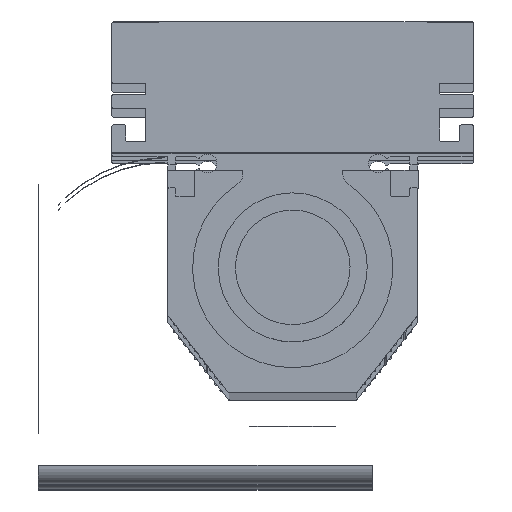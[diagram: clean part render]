
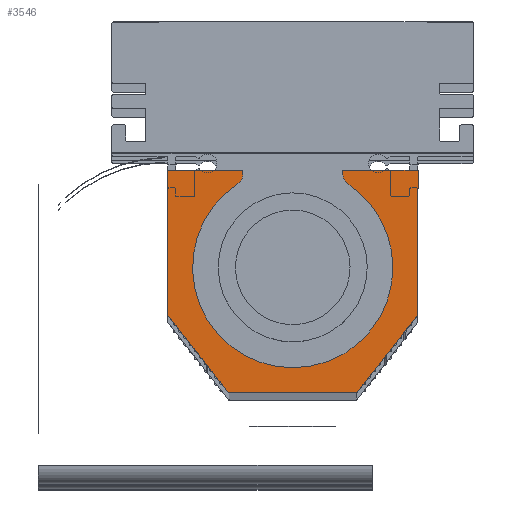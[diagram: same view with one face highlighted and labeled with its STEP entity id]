
A CAD part, top view. The second image highlights one B-rep face of the part: STEP entity #3546.
In plain terms, the highlighted planar face has unit normal (0, 0, 1).
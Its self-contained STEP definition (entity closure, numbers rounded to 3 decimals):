
#3386=CARTESIAN_POINT('',(0.,0.,376.5));
#3387=DIRECTION('',(0.,0.,1.));
#3388=DIRECTION('',(-0.549,0.836,0.));
#3389=AXIS2_PLACEMENT_3D('',#3386,#3387,#3388);
#3391=CARTESIAN_POINT('',(0.,0.,376.5));
#3392=DIRECTION('',(0.,0.,1.));
#3393=DIRECTION('',(0.499,-0.867,0.));
#3394=AXIS2_PLACEMENT_3D('',#3391,#3392,#3393);
#3396=CARTESIAN_POINT('',(0.,0.,376.5));
#3397=DIRECTION('',(0.,0.,1.));
#3398=DIRECTION('',(0.549,-0.836,0.));
#3399=AXIS2_PLACEMENT_3D('',#3396,#3397,#3398);
#3401=CARTESIAN_POINT('',(11.018,16.691,376.5));
#3402=DIRECTION('',(0.,0.,-1.));
#3403=DIRECTION('',(-0.551,-0.835,0.));
#3404=AXIS2_PLACEMENT_3D('',#3401,#3402,#3403);
#3406=DIRECTION('',(0.001,1.,0.));
#3407=VECTOR('',#3406,0.797);
#3408=CARTESIAN_POINT('',(9.018,16.694,376.5));
#3409=LINE('',#3408,#3407);
#3410=DIRECTION('',(1.,-0.001,0.));
#3411=VECTOR('',#3410,13.5);
#3412=CARTESIAN_POINT('',(9.019,17.49,376.5));
#3413=LINE('',#3412,#3411);
#3414=DIRECTION('',(-0.001,-1.,0.));
#3415=VECTOR('',#3414,25.898);
#3416=CARTESIAN_POINT('',(22.519,17.476,376.5));
#3417=LINE('',#3416,#3415);
#3418=CARTESIAN_POINT('',(22.241,-8.421,376.5));
#3419=DIRECTION('',(0.,0.,-1.));
#3420=DIRECTION('',(1.,-0.001,0.));
#3421=AXIS2_PLACEMENT_3D('',#3418,#3419,#3420);
#3423=DIRECTION('',(-0.618,-0.786,0.));
#3424=VECTOR('',#3423,17.609);
#3425=CARTESIAN_POINT('',(22.437,-8.576,376.5));
#3426=LINE('',#3425,#3424);
#3427=CARTESIAN_POINT('',(11.354,-22.262,376.5));
#3428=DIRECTION('',(0.,0.,-1.));
#3429=DIRECTION('',(0.786,-0.618,0.));
#3430=AXIS2_PLACEMENT_3D('',#3427,#3428,#3429);
#3432=DIRECTION('',(-1.,0.001,0.));
#3433=VECTOR('',#3432,22.757);
#3434=CARTESIAN_POINT('',(11.354,-22.512,376.5));
#3435=LINE('',#3434,#3433);
#3436=CARTESIAN_POINT('',(-11.402,-22.238,376.5));
#3437=DIRECTION('',(0.,0.,-1.));
#3438=DIRECTION('',(-0.001,-1.,0.));
#3439=AXIS2_PLACEMENT_3D('',#3436,#3437,#3438);
#3441=DIRECTION('',(-0.617,0.787,0.));
#3442=VECTOR('',#3441,17.609);
#3443=CARTESIAN_POINT('',(-11.599,-22.392,376.5));
#3444=LINE('',#3443,#3442);
#3445=CARTESIAN_POINT('',(-22.259,-8.374,376.5));
#3446=DIRECTION('',(0.,0.,-1.));
#3447=DIRECTION('',(-0.787,-0.617,0.));
#3448=AXIS2_PLACEMENT_3D('',#3445,#3446,#3447);
#3450=DIRECTION('',(0.001,1.,0.));
#3451=VECTOR('',#3450,25.898);
#3452=CARTESIAN_POINT('',(-22.509,-8.373,376.5));
#3453=LINE('',#3452,#3451);
#3454=DIRECTION('',(1.,-0.001,0.));
#3455=VECTOR('',#3454,13.5);
#3456=CARTESIAN_POINT('',(-22.481,17.524,376.5));
#3457=LINE('',#3456,#3455);
#3458=DIRECTION('',(-0.001,-1.,0.));
#3459=VECTOR('',#3458,0.797);
#3460=CARTESIAN_POINT('',(-8.981,17.51,376.5));
#3461=LINE('',#3460,#3459);
#3462=CARTESIAN_POINT('',(-10.982,16.715,376.5));
#3463=DIRECTION('',(0.,0.,-1.));
#3464=DIRECTION('',(1.,-0.001,0.));
#3465=AXIS2_PLACEMENT_3D('',#3462,#3463,#3464);
#3467=CARTESIAN_POINT('',(22.519,17.476,376.5));
#3468=CARTESIAN_POINT('',(9.019,17.49,376.5));
#3469=VERTEX_POINT('',#3467);
#3470=VERTEX_POINT('',#3468);
#3471=CARTESIAN_POINT('',(-9.884,15.044,376.5));
#3472=CARTESIAN_POINT('',(8.983,-15.598,376.5));
#3473=VERTEX_POINT('',#3471);
#3474=VERTEX_POINT('',#3472);
#3475=CARTESIAN_POINT('',(9.884,-15.044,376.5));
#3476=VERTEX_POINT('',#3475);
#3477=CARTESIAN_POINT('',(9.916,15.022,376.5));
#3478=VERTEX_POINT('',#3477);
#3479=CARTESIAN_POINT('',(9.018,16.694,376.5));
#3480=VERTEX_POINT('',#3479);
#3481=CARTESIAN_POINT('',(22.491,-8.422,376.5));
#3482=VERTEX_POINT('',#3481);
#3483=CARTESIAN_POINT('',(22.437,-8.576,376.5));
#3484=VERTEX_POINT('',#3483);
#3485=CARTESIAN_POINT('',(11.551,-22.417,376.5));
#3486=VERTEX_POINT('',#3485);
#3487=CARTESIAN_POINT('',(11.354,-22.512,376.5));
#3488=VERTEX_POINT('',#3487);
#3489=CARTESIAN_POINT('',(-11.403,-22.488,376.5));
#3490=VERTEX_POINT('',#3489);
#3491=CARTESIAN_POINT('',(-11.599,-22.392,376.5));
#3492=VERTEX_POINT('',#3491);
#3493=CARTESIAN_POINT('',(-22.456,-8.528,376.5));
#3494=VERTEX_POINT('',#3493);
#3495=CARTESIAN_POINT('',(-22.509,-8.373,376.5));
#3496=VERTEX_POINT('',#3495);
#3497=CARTESIAN_POINT('',(-22.481,17.524,376.5));
#3498=VERTEX_POINT('',#3497);
#3499=CARTESIAN_POINT('',(-8.981,17.51,376.5));
#3500=VERTEX_POINT('',#3499);
#3501=CARTESIAN_POINT('',(-8.982,16.713,376.5));
#3502=VERTEX_POINT('',#3501);
#3503=CARTESIAN_POINT('',(-17.034,20.518,376.5));
#3504=DIRECTION('',(0.,0.,-1.));
#3505=DIRECTION('',(1.,-0.001,0.));
#3506=AXIS2_PLACEMENT_3D('',#3503,#3504,#3505);
#3507=PLANE('',#3506);
#3509=ORIENTED_EDGE('',*,*,#3508,.T.);
#3511=ORIENTED_EDGE('',*,*,#3510,.T.);
#3513=ORIENTED_EDGE('',*,*,#3512,.T.);
#3515=ORIENTED_EDGE('',*,*,#3514,.T.);
#3517=ORIENTED_EDGE('',*,*,#3516,.T.);
#3519=ORIENTED_EDGE('',*,*,#3518,.T.);
#3521=ORIENTED_EDGE('',*,*,#3520,.T.);
#3523=ORIENTED_EDGE('',*,*,#3522,.T.);
#3525=ORIENTED_EDGE('',*,*,#3524,.T.);
#3527=ORIENTED_EDGE('',*,*,#3526,.T.);
#3529=ORIENTED_EDGE('',*,*,#3528,.T.);
#3531=ORIENTED_EDGE('',*,*,#3530,.T.);
#3533=ORIENTED_EDGE('',*,*,#3532,.T.);
#3535=ORIENTED_EDGE('',*,*,#3534,.T.);
#3537=ORIENTED_EDGE('',*,*,#3536,.T.);
#3539=ORIENTED_EDGE('',*,*,#3538,.T.);
#3541=ORIENTED_EDGE('',*,*,#3540,.T.);
#3543=ORIENTED_EDGE('',*,*,#3542,.T.);
#3544=EDGE_LOOP('',(#3509,#3511,#3513,#3515,#3517,#3519,#3521,#3523,#3525,#3527,
#3529,#3531,#3533,#3535,#3537,#3539,#3541,#3543));
#3545=FACE_OUTER_BOUND('',#3544,.F.);
#3546=ADVANCED_FACE('',(#3545),#3507,.F.);
#3390=CIRCLE('',#3389,18.);
#3395=CIRCLE('',#3394,18.);
#3400=CIRCLE('',#3399,18.);
#3405=CIRCLE('',#3404,2.);
#3422=CIRCLE('',#3421,0.25);
#3431=CIRCLE('',#3430,0.25);
#3440=CIRCLE('',#3439,0.25);
#3449=CIRCLE('',#3448,0.25);
#3466=CIRCLE('',#3465,2.);
#3508=EDGE_CURVE('',#3473,#3474,#3390,.T.);
#3510=EDGE_CURVE('',#3474,#3476,#3395,.T.);
#3512=EDGE_CURVE('',#3476,#3478,#3400,.T.);
#3514=EDGE_CURVE('',#3478,#3480,#3405,.T.);
#3516=EDGE_CURVE('',#3480,#3470,#3409,.T.);
#3518=EDGE_CURVE('',#3470,#3469,#3413,.T.);
#3520=EDGE_CURVE('',#3469,#3482,#3417,.T.);
#3522=EDGE_CURVE('',#3482,#3484,#3422,.T.);
#3524=EDGE_CURVE('',#3484,#3486,#3426,.T.);
#3526=EDGE_CURVE('',#3486,#3488,#3431,.T.);
#3528=EDGE_CURVE('',#3488,#3490,#3435,.T.);
#3530=EDGE_CURVE('',#3490,#3492,#3440,.T.);
#3532=EDGE_CURVE('',#3492,#3494,#3444,.T.);
#3534=EDGE_CURVE('',#3494,#3496,#3449,.T.);
#3536=EDGE_CURVE('',#3496,#3498,#3453,.T.);
#3538=EDGE_CURVE('',#3498,#3500,#3457,.T.);
#3540=EDGE_CURVE('',#3500,#3502,#3461,.T.);
#3542=EDGE_CURVE('',#3502,#3473,#3466,.T.);
